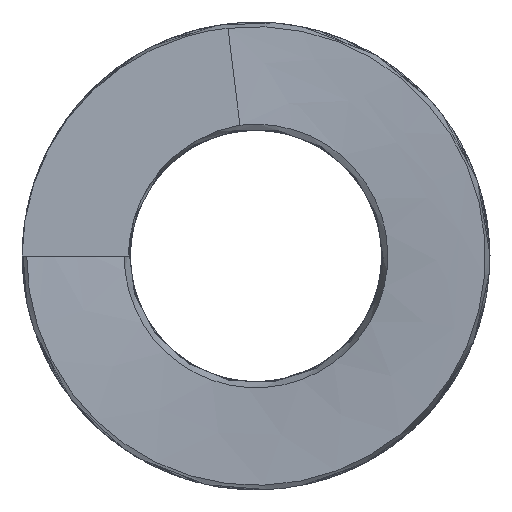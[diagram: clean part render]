
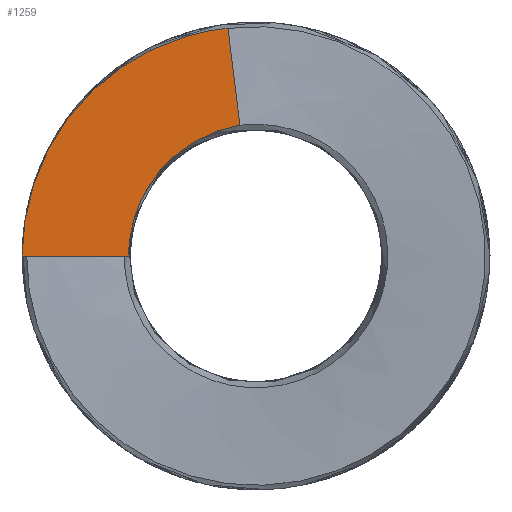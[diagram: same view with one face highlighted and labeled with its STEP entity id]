
A CAD part, left-side view. The second image highlights one B-rep face of the part: STEP entity #1259.
In plain terms, the highlighted planar face has unit normal (-1, 0, 0).
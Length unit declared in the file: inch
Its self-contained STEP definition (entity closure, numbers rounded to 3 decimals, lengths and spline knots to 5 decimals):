
#165 = CARTESIAN_POINT ( 'NONE',  ( 0., 0.3229, 0.52878 ) ) ;
#169 = CARTESIAN_POINT ( 'NONE',  ( 0., 0.3308, 0.08258 ) ) ;
#195 = CARTESIAN_POINT ( 'NONE',  ( 0., 0.14927, 0.59668 ) ) ;
#209 = CARTESIAN_POINT ( 'NONE',  ( 0., 0.5964, 0.18417 ) ) ;
#224 = CARTESIAN_POINT ( 'NONE',  ( 0., 0.62497, 0. ) ) ;
#250 = CARTESIAN_POINT ( 'NONE',  ( 0., 0.04294, 0.34948 ) ) ;
#300 = ORIENTED_EDGE ( 'NONE', *, *, #1285, .F. ) ;
#302 = ORIENTED_EDGE ( 'NONE', *, *, #3693, .F. ) ;
#442 = B_SPLINE_CURVE_WITH_KNOTS ( 'NONE', 2,
 ( #1943, #3055, #250 ),
 .UNSPECIFIED., .F., .F.,
 ( 3, 3 ),
 ( 0., 0.00662 ),
 .UNSPECIFIED. ) ;
#498 = CARTESIAN_POINT ( 'NONE',  ( 0., 0.04294, 0.34948 ) ) ;
#534 = CARTESIAN_POINT ( 'NONE',  ( 0., 0.62497, 0. ) ) ;
#568 = CARTESIAN_POINT ( 'NONE',  ( 0., 0.09355, 0.60652 ) ) ;
#595 = CARTESIAN_POINT ( 'NONE',  ( 0., 0.49169, 0.38182 ) ) ;
#610 = CARTESIAN_POINT ( 'NONE',  ( 0., 0.34003, 0. ) ) ;
#866 = CARTESIAN_POINT ( 'NONE',  ( 0., 0.33816, 0.04186 ) ) ;
#881 = CARTESIAN_POINT ( 'NONE',  ( 0., 0.24167, 0.24472 ) ) ;
#951 = CARTESIAN_POINT ( 'NONE',  ( 0., 0.41458, 0.4633 ) ) ;
#987 = EDGE_LOOP ( 'NONE', ( #3917, #2176, #302, #300 ) ) ;
#1044 = FACE_OUTER_BOUND ( 'NONE', #987, .T. ) ;
#1259 = ADVANCED_FACE ( 'NONE', ( #1044 ), #3062, .T. ) ;
#1263 = CARTESIAN_POINT ( 'NONE',  ( 0., 0.28117, 0.19635 ) ) ;
#1271 = LINE ( 'NONE', #2060, #3910 ) ;
#1285 = EDGE_CURVE ( 'NONE', #1501, #4487, #1846, .T. ) ;
#1292 = CARTESIAN_POINT ( 'NONE',  ( 0., 0.26923, 0.21325 ) ) ;
#1302 = CARTESIAN_POINT ( 'NONE',  ( 0., 0.44204, 0.43815 ) ) ;
#1501 = VERTEX_POINT ( 'NONE', #3967 ) ;
#1543 = B_SPLINE_CURVE_WITH_KNOTS ( 'NONE', 3,
 ( #224, #2758, #4160, #2771, #3087, #209, #2392, #3800, #3117, #2011, #2740, #595, #2377, #1302, #951, #3132, #165, #3417, #4130, #4495, #195, #2352, #568, #3101 ),
 .UNSPECIFIED., .F., .F.,
 ( 4, 2, 2, 2, 2, 2, 2, 2, 2, 2, 2, 4 ),
 ( 0., 0.00284, 0.00426, 0.00568, 0.00852, 0.00994, 0.01136, 0.0142, 0.01704, 0.01988, 0.0213, 0.02272 ),
 .UNSPECIFIED. ) ;
#1612 = CARTESIAN_POINT ( 'NONE',  ( 0., 0.14157, 0.31808 ) ) ;
#1846 = B_SPLINE_CURVE_WITH_KNOTS ( 'NONE', 3,
 ( #498, #4500, #4449, #4513, #1612, #3451, #3764, #1955, #3391, #881, #4120, #1292, #1263, #2356, #3792, #2672, #3777, #2325, #169, #866, #1972, #4482 ),
 .UNSPECIFIED., .F., .F.,
 ( 4, 2, 2, 2, 2, 2, 2, 2, 2, 2, 4 ),
 ( 0., 0.00158, 0.00315, 0.00473, 0.00551, 0.0063, 0.00788, 0.00867, 0.00945, 0.01103, 0.0126 ),
 .UNSPECIFIED. ) ;
#1943 = CARTESIAN_POINT ( 'NONE',  ( 0., 0.07474, 0.60829 ) ) ;
#1955 = CARTESIAN_POINT ( 'NONE',  ( 0., 0.21907, 0.26613 ) ) ;
#1972 = CARTESIAN_POINT ( 'NONE',  ( 0., 0.34008, 0.02097 ) ) ;
#2001 = DIRECTION ( 'NONE',  ( -1., 0., 0. ) ) ;
#2011 = CARTESIAN_POINT ( 'NONE',  ( 0., 0.5246, 0.33608 ) ) ;
#2025 = DIRECTION ( 'NONE',  ( 0., 1., 0. ) ) ;
#2036 = CARTESIAN_POINT ( 'NONE',  ( 0., 0.07474, 0.60829 ) ) ;
#2060 = CARTESIAN_POINT ( 'NONE',  ( 0., 0.4825, 0. ) ) ;
#2176 = ORIENTED_EDGE ( 'NONE', *, *, #3960, .F. ) ;
#2183 = VERTEX_POINT ( 'NONE', #2036 ) ;
#2325 = CARTESIAN_POINT ( 'NONE',  ( 0., 0.32536, 0.10255 ) ) ;
#2341 = DIRECTION ( 'NONE',  ( 0., -1., 0. ) ) ;
#2352 = CARTESIAN_POINT ( 'NONE',  ( 0., 0.11222, 0.60384 ) ) ;
#2356 = CARTESIAN_POINT ( 'NONE',  ( 0., 0.29678, 0.16958 ) ) ;
#2377 = CARTESIAN_POINT ( 'NONE',  ( 0., 0.47968, 0.39646 ) ) ;
#2392 = CARTESIAN_POINT ( 'NONE',  ( 0., 0.59041, 0.20214 ) ) ;
#2672 = CARTESIAN_POINT ( 'NONE',  ( 0., 0.31047, 0.1416 ) ) ;
#2740 = CARTESIAN_POINT ( 'NONE',  ( 0., 0.51415, 0.35161 ) ) ;
#2758 = CARTESIAN_POINT ( 'NONE',  ( 0., 0.62492, 0.03781 ) ) ;
#2771 = CARTESIAN_POINT ( 'NONE',  ( 0., 0.61092, 0.12994 ) ) ;
#3055 = CARTESIAN_POINT ( 'NONE',  ( 0., 0.05884, 0.47888 ) ) ;
#3062 = PLANE ( 'NONE',  #3195 ) ;
#3087 = CARTESIAN_POINT ( 'NONE',  ( 0., 0.60664, 0.14811 ) ) ;
#3091 = CARTESIAN_POINT ( 'NONE',  ( 0., 0., 0. ) ) ;
#3101 = CARTESIAN_POINT ( 'NONE',  ( 0., 0.07474, 0.60829 ) ) ;
#3117 = CARTESIAN_POINT ( 'NONE',  ( 0., 0.55372, 0.28828 ) ) ;
#3132 = CARTESIAN_POINT ( 'NONE',  ( 0., 0.35516, 0.50857 ) ) ;
#3156 = EDGE_CURVE ( 'NONE', #2183, #1501, #442, .T. ) ;
#3195 = AXIS2_PLACEMENT_3D ( 'NONE', #3091, #2001, #2341 ) ;
#3391 = CARTESIAN_POINT ( 'NONE',  ( 0., 0.22679, 0.25923 ) ) ;
#3417 = CARTESIAN_POINT ( 'NONE',  ( 0., 0.25623, 0.56255 ) ) ;
#3451 = CARTESIAN_POINT ( 'NONE',  ( 0., 0.17798, 0.29748 ) ) ;
#3634 = VERTEX_POINT ( 'NONE', #534 ) ;
#3693 = EDGE_CURVE ( 'NONE', #4487, #3634, #1271, .T. ) ;
#3764 = CARTESIAN_POINT ( 'NONE',  ( 0., 0.19507, 0.28577 ) ) ;
#3777 = CARTESIAN_POINT ( 'NONE',  ( 0., 0.31454, 0.13191 ) ) ;
#3792 = CARTESIAN_POINT ( 'NONE',  ( 0., 0.3016, 0.16041 ) ) ;
#3800 = CARTESIAN_POINT ( 'NONE',  ( 0., 0.57018, 0.2548 ) ) ;
#3910 = VECTOR ( 'NONE', #2025, 39.37008 ) ;
#3917 = ORIENTED_EDGE ( 'NONE', *, *, #3156, .F. ) ;
#3960 = EDGE_CURVE ( 'NONE', #3634, #2183, #1543, .T. ) ;
#3967 = CARTESIAN_POINT ( 'NONE',  ( 0., 0.04294, 0.34948 ) ) ;
#4120 = CARTESIAN_POINT ( 'NONE',  ( 0., 0.24886, 0.23706 ) ) ;
#4130 = CARTESIAN_POINT ( 'NONE',  ( 0., 0.2216, 0.57633 ) ) ;
#4160 = CARTESIAN_POINT ( 'NONE',  ( 0., 0.62129, 0.075 ) ) ;
#4449 = CARTESIAN_POINT ( 'NONE',  ( 0., 0.08367, 0.34068 ) ) ;
#4482 = CARTESIAN_POINT ( 'NONE',  ( 0., 0.34003, 0. ) ) ;
#4487 = VERTEX_POINT ( 'NONE', #610 ) ;
#4495 = CARTESIAN_POINT ( 'NONE',  ( 0., 0.16766, 0.59219 ) ) ;
#4500 = CARTESIAN_POINT ( 'NONE',  ( 0., 0.06362, 0.34597 ) ) ;
#4513 = CARTESIAN_POINT ( 'NONE',  ( 0., 0.12261, 0.32675 ) ) ;
